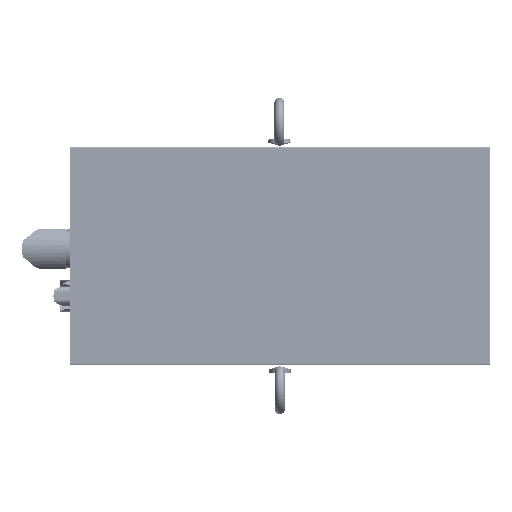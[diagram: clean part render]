
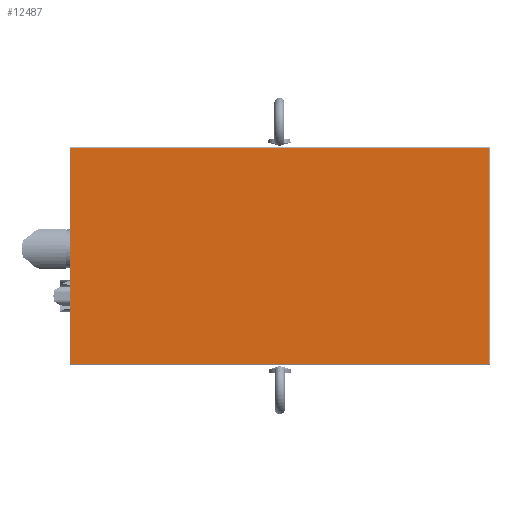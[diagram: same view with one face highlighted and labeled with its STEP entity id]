
A CAD part, top view. The second image highlights one B-rep face of the part: STEP entity #12487.
In plain terms, the highlighted planar face has unit normal (0, 0, 1).
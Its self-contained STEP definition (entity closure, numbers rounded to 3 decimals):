
#12448=CARTESIAN_POINT('',(-72.5,65.,568.));
#12449=DIRECTION('',(0.,1.,0.));
#12450=DIRECTION('',(0.,-0.,1.));
#12451=AXIS2_PLACEMENT_3D('',#12448,#12450,#12449);
#12452=PLANE('',#12451);
#12453=CARTESIAN_POINT('',(-206.5,-69.,568.));
#12454=VERTEX_POINT('',#12453);
#12455=CARTESIAN_POINT('',(61.5,-69.,568.));
#12456=VERTEX_POINT('',#12455);
#12457=CARTESIAN_POINT('',(-206.5,-69.,568.));
#12458=DIRECTION('',(1.,0.,0.));
#12459=VECTOR('',#12458,268.);
#12460=LINE('',#12457,#12459);
#12461=EDGE_CURVE('',#12454,#12456,#12460,.T.);
#12462=ORIENTED_EDGE('E4293',*,*,#12461,.T.);
#12463=CARTESIAN_POINT('',(61.5,69.,568.));
#12464=VERTEX_POINT('',#12463);
#12465=CARTESIAN_POINT('',(61.5,-69.,568.));
#12466=DIRECTION('',(0.,1.,0.));
#12467=VECTOR('',#12466,138.);
#12468=LINE('',#12465,#12467);
#12469=EDGE_CURVE('',#12456,#12464,#12468,.T.);
#12470=ORIENTED_EDGE('E4294',*,*,#12469,.T.);
#12471=CARTESIAN_POINT('',(-206.5,69.,568.));
#12472=VERTEX_POINT('',#12471);
#12473=CARTESIAN_POINT('',(61.5,69.,568.));
#12474=DIRECTION('',(-1.,0.,0.));
#12475=VECTOR('',#12474,268.);
#12476=LINE('',#12473,#12475);
#12477=EDGE_CURVE('',#12464,#12472,#12476,.T.);
#12478=ORIENTED_EDGE('E4295',*,*,#12477,.T.);
#12479=CARTESIAN_POINT('',(-206.5,69.,568.));
#12480=DIRECTION('',(0.,-1.,0.));
#12481=VECTOR('',#12480,138.);
#12482=LINE('',#12479,#12481);
#12483=EDGE_CURVE('',#12472,#12454,#12482,.T.);
#12484=ORIENTED_EDGE('E4296',*,*,#12483,.T.);
#12485=EDGE_LOOP('',(#12462,#12470,#12478,#12484));
#12486=FACE_OUTER_BOUND('',#12485,.T.);
#12487=ADVANCED_FACE('F1649',(#12486),#12452,.T.);
